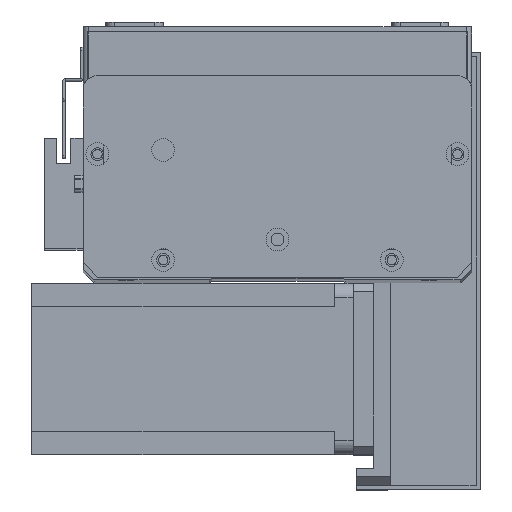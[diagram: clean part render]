
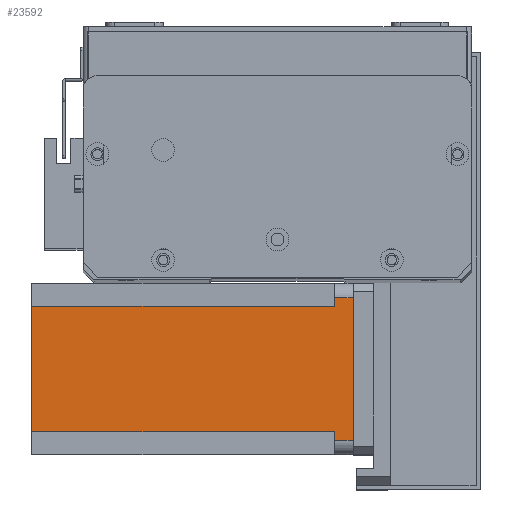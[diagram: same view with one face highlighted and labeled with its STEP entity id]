
A CAD part, top view. The second image highlights one B-rep face of the part: STEP entity #23592.
In plain terms, the highlighted planar face has unit normal (0, 0, 1) as drawn and (0, -1, 0) by its records, which use the part's own axes.
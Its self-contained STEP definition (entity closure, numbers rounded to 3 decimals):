
#513 = CARTESIAN_POINT ( 'NONE',  ( 0., 0., -112.5 ) ) ;
#672 = VERTEX_POINT ( 'NONE', #1962 ) ;
#1134 = VERTEX_POINT ( 'NONE', #20933 ) ;
#1217 = AXIS2_PLACEMENT_3D ( 'NONE', #513, #18560, #5147 ) ;
#1240 = DIRECTION ( 'NONE',  ( 1., 0., 0. ) ) ;
#1761 = EDGE_CURVE ( 'NONE', #672, #2748, #9367, .T. ) ;
#1789 = DIRECTION ( 'NONE',  ( 0., 0., 1. ) ) ;
#1852 = LINE ( 'NONE', #27826, #7506 ) ;
#1962 = CARTESIAN_POINT ( 'NONE',  ( 5., 0., 0. ) ) ;
#1999 = CARTESIAN_POINT ( 'NONE',  ( 5., 0., -6.5 ) ) ;
#2227 = VECTOR ( 'NONE', #23041, 1000. ) ;
#2288 = LINE ( 'NONE', #15612, #14224 ) ;
#2506 = EDGE_CURVE ( 'NONE', #14929, #19569, #2288, .T. ) ;
#2748 = VERTEX_POINT ( 'NONE', #1999 ) ;
#2928 = FACE_OUTER_BOUND ( 'NONE', #10330, .T. ) ;
#2986 = CARTESIAN_POINT ( 'NONE',  ( 52., 0., -6.5 ) ) ;
#4011 = CARTESIAN_POINT ( 'NONE',  ( 8., 0., -112.5 ) ) ;
#4564 = EDGE_CURVE ( 'NONE', #10914, #14929, #11321, .T. ) ;
#4589 = CARTESIAN_POINT ( 'NONE',  ( 5., 0., -112.5 ) ) ;
#5147 = DIRECTION ( 'NONE',  ( 0., 0., -1. ) ) ;
#5239 = DIRECTION ( 'NONE',  ( 0., 0., -1. ) ) ;
#5605 = DIRECTION ( 'NONE',  ( 0., 0., -1. ) ) ;
#7506 = VECTOR ( 'NONE', #5605, 1000. ) ;
#9367 = LINE ( 'NONE', #4589, #19875 ) ;
#9679 = CARTESIAN_POINT ( 'NONE',  ( 0., 0., 0. ) ) ;
#10330 = EDGE_LOOP ( 'NONE', ( #26891, #25429, #26097, #16822, #18951, #16781, #20816, #11017 ) ) ;
#10914 = VERTEX_POINT ( 'NONE', #11538 ) ;
#11017 = ORIENTED_EDGE ( 'NONE', *, *, #24201, .F. ) ;
#11321 = LINE ( 'NONE', #2986, #16549 ) ;
#11538 = CARTESIAN_POINT ( 'NONE',  ( 52., 0., -6.5 ) ) ;
#12673 = VECTOR ( 'NONE', #1789, 1000. ) ;
#13340 = LINE ( 'NONE', #4011, #12673 ) ;
#14224 = VECTOR ( 'NONE', #15027, 1000. ) ;
#14364 = CARTESIAN_POINT ( 'NONE',  ( 8., 0., -6.5 ) ) ;
#14496 = VERTEX_POINT ( 'NONE', #22911 ) ;
#14929 = VERTEX_POINT ( 'NONE', #15216 ) ;
#15027 = DIRECTION ( 'NONE',  ( 0., 0., 1. ) ) ;
#15216 = CARTESIAN_POINT ( 'NONE',  ( 55., 0., -6.5 ) ) ;
#15612 = CARTESIAN_POINT ( 'NONE',  ( 55., 0., -112.5 ) ) ;
#16549 = VECTOR ( 'NONE', #1240, 1000. ) ;
#16781 = ORIENTED_EDGE ( 'NONE', *, *, #26582, .F. ) ;
#16822 = ORIENTED_EDGE ( 'NONE', *, *, #1761, .T. ) ;
#18560 = DIRECTION ( 'NONE',  ( 0., -1., 0. ) ) ;
#18951 = ORIENTED_EDGE ( 'NONE', *, *, #27806, .F. ) ;
#18957 = CARTESIAN_POINT ( 'NONE',  ( 55., 0., 0. ) ) ;
#19569 = VERTEX_POINT ( 'NONE', #18957 ) ;
#19875 = VECTOR ( 'NONE', #5239, 1000. ) ;
#20113 = LINE ( 'NONE', #9679, #2227 ) ;
#20314 = DIRECTION ( 'NONE',  ( -1., 0., 0. ) ) ;
#20816 = ORIENTED_EDGE ( 'NONE', *, *, #25237, .T. ) ;
#20933 = CARTESIAN_POINT ( 'NONE',  ( 8., 0., -112.5 ) ) ;
#21112 = VECTOR ( 'NONE', #27797, 1000. ) ;
#21120 = VECTOR ( 'NONE', #20314, 1000. ) ;
#22911 = CARTESIAN_POINT ( 'NONE',  ( 52., 0., -112.5 ) ) ;
#23041 = DIRECTION ( 'NONE',  ( 1., 0., 0. ) ) ;
#23592 = ADVANCED_FACE ( 'NONE', ( #2928 ), #27280, .T. ) ;
#23610 = EDGE_CURVE ( 'NONE', #672, #19569, #20113, .T. ) ;
#23660 = VERTEX_POINT ( 'NONE', #14364 ) ;
#24201 = EDGE_CURVE ( 'NONE', #10914, #14496, #1852, .T. ) ;
#25237 = EDGE_CURVE ( 'NONE', #1134, #14496, #27554, .T. ) ;
#25429 = ORIENTED_EDGE ( 'NONE', *, *, #2506, .T. ) ;
#25656 = CARTESIAN_POINT ( 'NONE',  ( 0., 0., -112.5 ) ) ;
#26097 = ORIENTED_EDGE ( 'NONE', *, *, #23610, .F. ) ;
#26582 = EDGE_CURVE ( 'NONE', #1134, #23660, #13340, .T. ) ;
#26822 = CARTESIAN_POINT ( 'NONE',  ( 8., 0., -6.5 ) ) ;
#26891 = ORIENTED_EDGE ( 'NONE', *, *, #4564, .T. ) ;
#26901 = LINE ( 'NONE', #26822, #21120 ) ;
#27280 = PLANE ( 'NONE',  #1217 ) ;
#27554 = LINE ( 'NONE', #25656, #21112 ) ;
#27797 = DIRECTION ( 'NONE',  ( 1., 0., 0. ) ) ;
#27806 = EDGE_CURVE ( 'NONE', #23660, #2748, #26901, .T. ) ;
#27826 = CARTESIAN_POINT ( 'NONE',  ( 52., 0., -112.5 ) ) ;
